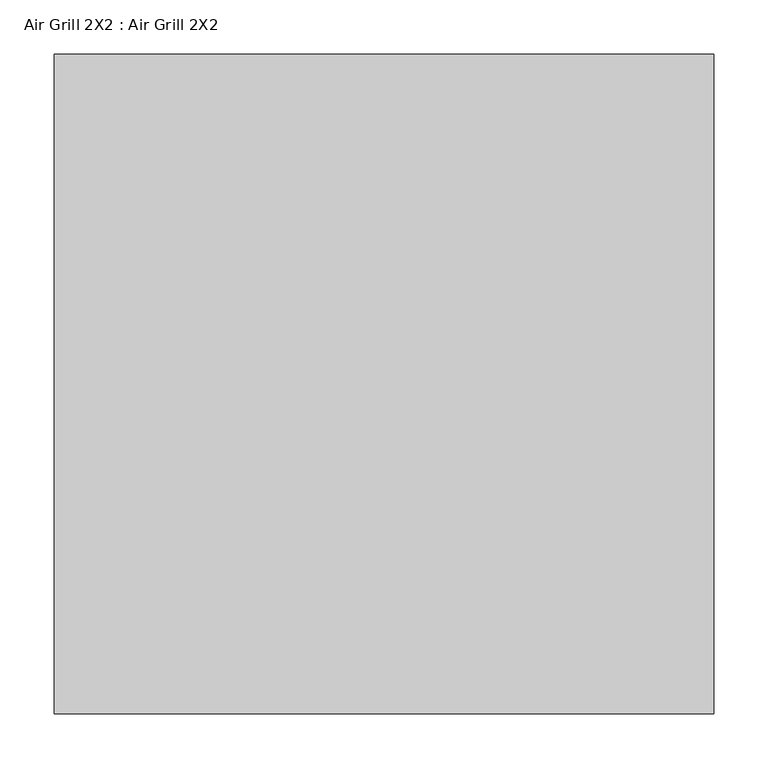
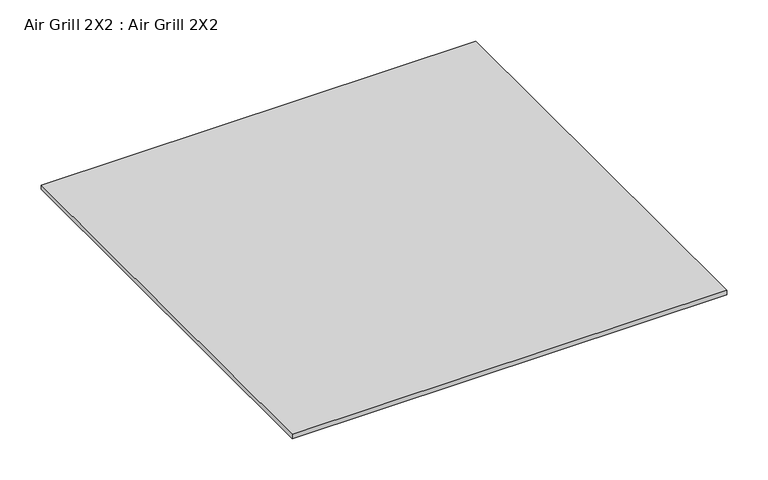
"""IFC4 building model written with IfcOpenShell, lengths in millimetres: proxy geometry, Air Grill 2X2 : Air Grill 2X2."""

from ifc_helpers import new_model, si_unit, frame, origin, place, context, project, spatial, polyline, outline, extrude, source, transform, mapped, element, save


def air_grill_2x2_air_grill_2x2_a12f53e0(model_context):
    return source(origin(), model_context, "Body", "SweptSolid", [
        extrude(outline(polyline([(304.8, 304.8), (304.8, -304.8), (-304.8, -304.8), (-304.8, 304.8), (304.8, 304.8)])), frame((0.0, 0.0, 2438.4), z_axis=(0.0, 0.0, 1.0), x_axis=(1.0, 0.0, 0.0)), (0.0, 0.0, 1.0), 6.35),
    ])


if __name__ == "__main__":
    model = new_model("IFC4")
    model_context = context("Model", 3, world=origin())
    ifc_project = project(units=[si_unit("LENGTHUNIT", "METRE", prefix="MILLI")], contexts=[model_context])
    site = spatial("IfcSite", under=ifc_project)
    building = spatial("IfcBuilding", under=site)
    placement = place(None, origin())
    air_grill_2x2_air_grill_2x2_shape = air_grill_2x2_air_grill_2x2_a12f53e0(model_context)
    element("IfcBuildingElementProxy", 1, Name="Air Grill 2X2 : Air Grill 2X2", ObjectType="Air Grill 2X2 : Air Grill 2X2", at=placement, inside=building, context=model_context, shape_type="MappedRepresentation", body=[
        mapped(air_grill_2x2_air_grill_2x2_shape, transform((0.0, 0.0, 0.0), x_axis=(1.0, 0.0, 0.0), y_axis=(0.0, 1.0, 0.0), z_axis=(0.0, 0.0, 1.0))),
    ])
    save(model, "model.ifc")
